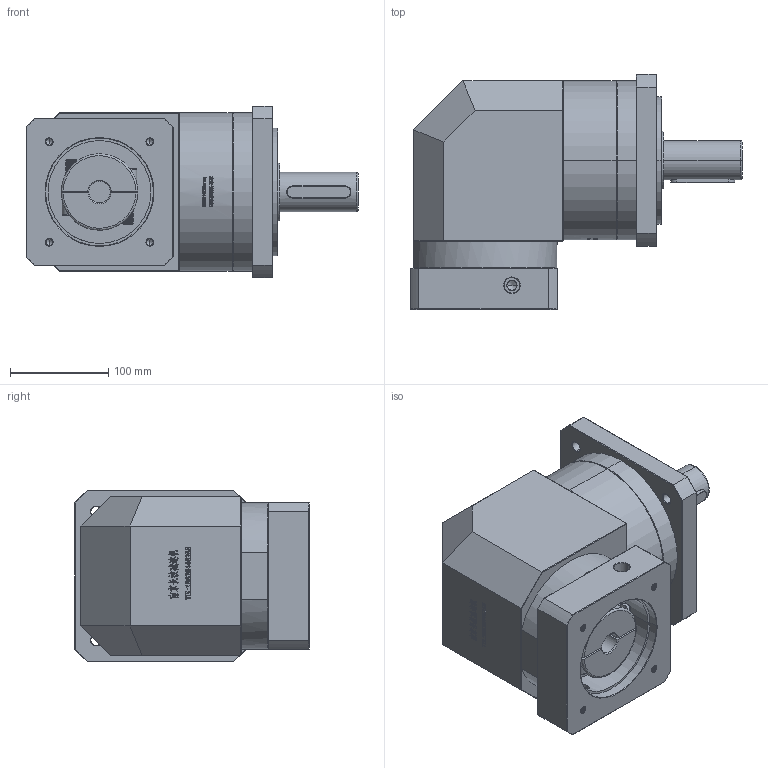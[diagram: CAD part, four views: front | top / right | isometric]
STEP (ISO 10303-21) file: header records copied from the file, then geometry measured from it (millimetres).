
FILE_DESCRIPTION (( 'STEP AP214' ), '1' );
FILE_NAME ('ZFR160A-D40-L1-22-110-145-M8.step', '2023-03-22T11:42:40', ( '' ), ( '' ), 'SwSTEP 2.0', 'SolidWorks 2016', '' );
FILE_SCHEMA (( 'AUTOMOTIVE_DESIGN' ));
Length unit declared in the file: millimetre
Products named in the file (1): ZFR160A-D40-L1-22-110-145-M8
Bounding box: 338.7 x 239.5 x 175 mm (x, y, z)
Volume: 6595923 mm3; surface area: 432225.9 mm2
Topology: 6 solids, 6 shells, 2542 faces, 6695 edges, 4306 vertices
Faces by surface type: plane 1275, bspline 500, cylinder 438, cone 307, torus 22
Entity records: 144917 total; most frequent: CARTESIAN_POINT 58718, ORIENTED_EDGE 13330, DIRECTION 10090, EDGE_CURVE 6665, VERTEX_POINT 4306, VECTOR 4178, LINE 4178, AXIS2_PLACEMENT_3D 2956
